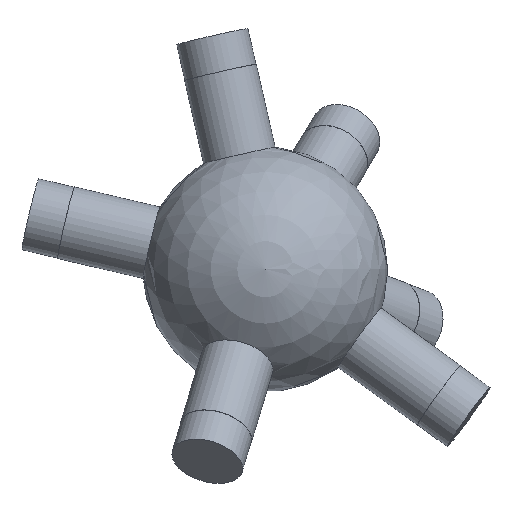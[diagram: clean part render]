
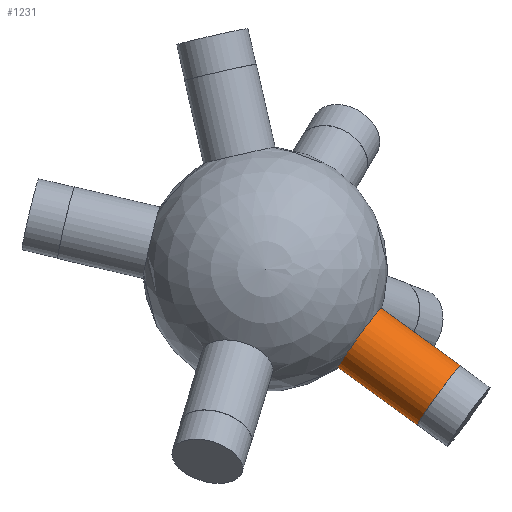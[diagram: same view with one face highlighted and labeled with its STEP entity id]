
A CAD part, top view. The second image highlights one B-rep face of the part: STEP entity #1231.
In plain terms, the highlighted cylindrical face has radius 6 mm (diameter 12 mm), a full revolution.
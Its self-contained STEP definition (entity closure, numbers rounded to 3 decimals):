
#33 = SPHERICAL_SURFACE('',#34,20.);
#34 = AXIS2_PLACEMENT_3D('',#35,#36,#37);
#35 = CARTESIAN_POINT('',(0.,0.,0.));
#36 = DIRECTION('',(0.,0.,1.));
#37 = DIRECTION('',(1.,0.,-0.));
#612 = EDGE_CURVE('',#613,#613,#615,.T.);
#613 = VERTEX_POINT('',#614);
#614 = CARTESIAN_POINT('',(18.948,-6.343,
    0.864));
#615 = SURFACE_CURVE('',#616,(#621,#683),.PCURVE_S1.);
#616 = CIRCLE('',#617,6.);
#617 = AXIS2_PLACEMENT_3D('',#618,#619,#620);
#618 = CARTESIAN_POINT('',(15.423,-11.198,
    0.864));
#619 = DIRECTION('',(0.808,-0.587,0.045));
#620 = DIRECTION('',(0.588,0.809,0.));
#621 = PCURVE('',#33,#622);
#622 = DEFINITIONAL_REPRESENTATION('',(#623),#682);
#623 = B_SPLINE_CURVE_WITH_KNOTS('',8,(#624,#625,#626,#627,#628,#629,
    #630,#631,#632,#633,#634,#635,#636,#637,#638,#639,#640,#641,#642,
    #643,#644,#645,#646,#647,#648,#649,#650,#651,#652,#653,#654,#655,
    #656,#657,#658,#659,#660,#661,#662,#663,#664,#665,#666,#667,#668,
    #669,#670,#671,#672,#673,#674,#675,#676,#677,#678,#679,#680,#681),
  .UNSPECIFIED.,.F.,.F.,(9,7,7,7,7,7,7,7,9),(0.,0.785,
    1.473,2.074,3.126,3.915,
    4.507,5.395,6.283),.UNSPECIFIED.);
#624 = CARTESIAN_POINT('',(5.96,0.043));
#625 = CARTESIAN_POINT('',(5.961,0.073));
#626 = CARTESIAN_POINT('',(5.958,0.102));
#627 = CARTESIAN_POINT('',(5.952,0.131));
#628 = CARTESIAN_POINT('',(5.943,0.16));
#629 = CARTESIAN_POINT('',(5.931,0.187));
#630 = CARTESIAN_POINT('',(5.915,0.213));
#631 = CARTESIAN_POINT('',(5.897,0.236));
#632 = CARTESIAN_POINT('',(5.858,0.277));
#633 = CARTESIAN_POINT('',(5.838,0.294));
#634 = CARTESIAN_POINT('',(5.816,0.309));
#635 = CARTESIAN_POINT('',(5.792,0.322));
#636 = CARTESIAN_POINT('',(5.767,0.332));
#637 = CARTESIAN_POINT('',(5.741,0.34));
#638 = CARTESIAN_POINT('',(5.714,0.346));
#639 = CARTESIAN_POINT('',(5.663,0.351));
#640 = CARTESIAN_POINT('',(5.638,0.351));
#641 = CARTESIAN_POINT('',(5.614,0.349));
#642 = CARTESIAN_POINT('',(5.591,0.346));
#643 = CARTESIAN_POINT('',(5.567,0.34));
#644 = CARTESIAN_POINT('',(5.545,0.332));
#645 = CARTESIAN_POINT('',(5.523,0.322));
#646 = CARTESIAN_POINT('',(5.467,0.291));
#647 = CARTESIAN_POINT('',(5.435,0.266));
#648 = CARTESIAN_POINT('',(5.407,0.236));
#649 = CARTESIAN_POINT('',(5.384,0.202));
#650 = CARTESIAN_POINT('',(5.367,0.165));
#651 = CARTESIAN_POINT('',(5.356,0.127));
#652 = CARTESIAN_POINT('',(5.35,0.087));
#653 = CARTESIAN_POINT('',(5.35,0.018));
#654 = CARTESIAN_POINT('',(5.353,-0.011));
#655 = CARTESIAN_POINT('',(5.36,-0.041));
#656 = CARTESIAN_POINT('',(5.369,-0.069));
#657 = CARTESIAN_POINT('',(5.382,-0.096));
#658 = CARTESIAN_POINT('',(5.397,-0.122));
#659 = CARTESIAN_POINT('',(5.415,-0.146));
#660 = CARTESIAN_POINT('',(5.451,-0.183));
#661 = CARTESIAN_POINT('',(5.468,-0.198));
#662 = CARTESIAN_POINT('',(5.487,-0.211));
#663 = CARTESIAN_POINT('',(5.506,-0.223));
#664 = CARTESIAN_POINT('',(5.526,-0.233));
#665 = CARTESIAN_POINT('',(5.548,-0.242));
#666 = CARTESIAN_POINT('',(5.57,-0.248));
#667 = CARTESIAN_POINT('',(5.626,-0.26));
#668 = CARTESIAN_POINT('',(5.66,-0.263));
#669 = CARTESIAN_POINT('',(5.695,-0.261));
#670 = CARTESIAN_POINT('',(5.73,-0.255));
#671 = CARTESIAN_POINT('',(5.763,-0.244));
#672 = CARTESIAN_POINT('',(5.794,-0.23));
#673 = CARTESIAN_POINT('',(5.823,-0.212));
#674 = CARTESIAN_POINT('',(5.875,-0.169));
#675 = CARTESIAN_POINT('',(5.898,-0.144));
#676 = CARTESIAN_POINT('',(5.918,-0.117));
#677 = CARTESIAN_POINT('',(5.934,-0.087));
#678 = CARTESIAN_POINT('',(5.947,-0.056));
#679 = CARTESIAN_POINT('',(5.955,-0.023));
#680 = CARTESIAN_POINT('',(5.96,0.01));
#681 = CARTESIAN_POINT('',(5.96,0.043));
#682 = ( GEOMETRIC_REPRESENTATION_CONTEXT(2) 
PARAMETRIC_REPRESENTATION_CONTEXT() REPRESENTATION_CONTEXT('2D SPACE',''
  ) );
#683 = PCURVE('',#684,#689);
#684 = CYLINDRICAL_SURFACE('',#685,6.);
#685 = AXIS2_PLACEMENT_3D('',#686,#687,#688);
#686 = CARTESIAN_POINT('',(0.,0.,0.));
#687 = DIRECTION('',(0.808,-0.587,0.045));
#688 = DIRECTION('',(0.588,0.809,0.));
#689 = DEFINITIONAL_REPRESENTATION('',(#690),#694);
#690 = LINE('',#691,#692);
#691 = CARTESIAN_POINT('',(0.,19.079));
#692 = VECTOR('',#693,1.);
#693 = DIRECTION('',(1.,0.));
#694 = ( GEOMETRIC_REPRESENTATION_CONTEXT(2) 
PARAMETRIC_REPRESENTATION_CONTEXT() REPRESENTATION_CONTEXT('2D SPACE',''
  ) );
#1231 = ADVANCED_FACE('',(#1232),#684,.T.);
#1232 = FACE_BOUND('',#1233,.T.);
#1233 = EDGE_LOOP('',(#1234,#1257,#1284,#1285));
#1234 = ORIENTED_EDGE('',*,*,#1235,.T.);
#1235 = EDGE_CURVE('',#613,#1236,#1238,.T.);
#1236 = VERTEX_POINT('',#1237);
#1237 = CARTESIAN_POINT('',(31.894,-15.742,
    1.59));
#1238 = SEAM_CURVE('',#1239,(#1243,#1250),.PCURVE_S1.);
#1239 = LINE('',#1240,#1241);
#1240 = CARTESIAN_POINT('',(3.525,4.855,
    0.));
#1241 = VECTOR('',#1242,1.);
#1242 = DIRECTION('',(0.808,-0.587,0.045)
  );
#1243 = PCURVE('',#684,#1244);
#1244 = DEFINITIONAL_REPRESENTATION('',(#1245),#1249);
#1245 = LINE('',#1246,#1247);
#1246 = CARTESIAN_POINT('',(6.283,-0.));
#1247 = VECTOR('',#1248,1.);
#1248 = DIRECTION('',(0.,1.));
#1249 = ( GEOMETRIC_REPRESENTATION_CONTEXT(2) 
PARAMETRIC_REPRESENTATION_CONTEXT() REPRESENTATION_CONTEXT('2D SPACE',''
  ) );
#1250 = PCURVE('',#684,#1251);
#1251 = DEFINITIONAL_REPRESENTATION('',(#1252),#1256);
#1252 = LINE('',#1253,#1254);
#1253 = CARTESIAN_POINT('',(0.,-0.));
#1254 = VECTOR('',#1255,1.);
#1255 = DIRECTION('',(0.,1.));
#1256 = ( GEOMETRIC_REPRESENTATION_CONTEXT(2) 
PARAMETRIC_REPRESENTATION_CONTEXT() REPRESENTATION_CONTEXT('2D SPACE',''
  ) );
#1257 = ORIENTED_EDGE('',*,*,#1258,.F.);
#1258 = EDGE_CURVE('',#1236,#1236,#1259,.T.);
#1259 = SURFACE_CURVE('',#1260,(#1265,#1272),.PCURVE_S1.);
#1260 = CIRCLE('',#1261,6.);
#1261 = AXIS2_PLACEMENT_3D('',#1262,#1263,#1264);
#1262 = CARTESIAN_POINT('',(28.369,-20.598,
    1.59));
#1263 = DIRECTION('',(0.808,-0.587,0.045)
  );
#1264 = DIRECTION('',(0.588,0.809,0.)
  );
#1265 = PCURVE('',#684,#1266);
#1266 = DEFINITIONAL_REPRESENTATION('',(#1267),#1271);
#1267 = LINE('',#1268,#1269);
#1268 = CARTESIAN_POINT('',(0.,35.094));
#1269 = VECTOR('',#1270,1.);
#1270 = DIRECTION('',(1.,0.));
#1271 = ( GEOMETRIC_REPRESENTATION_CONTEXT(2) 
PARAMETRIC_REPRESENTATION_CONTEXT() REPRESENTATION_CONTEXT('2D SPACE',''
  ) );
#1272 = PCURVE('',#1273,#1278);
#1273 = PLANE('',#1274);
#1274 = AXIS2_PLACEMENT_3D('',#1275,#1276,#1277);
#1275 = CARTESIAN_POINT('',(28.369,-20.598,
    1.59));
#1276 = DIRECTION('',(0.808,-0.587,0.045)
  );
#1277 = DIRECTION('',(0.588,0.809,0.)
  );
#1278 = DEFINITIONAL_REPRESENTATION('',(#1279),#1283);
#1279 = CIRCLE('',#1280,6.);
#1280 = AXIS2_PLACEMENT_2D('',#1281,#1282);
#1281 = CARTESIAN_POINT('',(0.,0.));
#1282 = DIRECTION('',(1.,0.));
#1283 = ( GEOMETRIC_REPRESENTATION_CONTEXT(2) 
PARAMETRIC_REPRESENTATION_CONTEXT() REPRESENTATION_CONTEXT('2D SPACE',''
  ) );
#1284 = ORIENTED_EDGE('',*,*,#1235,.F.);
#1285 = ORIENTED_EDGE('',*,*,#612,.T.);
